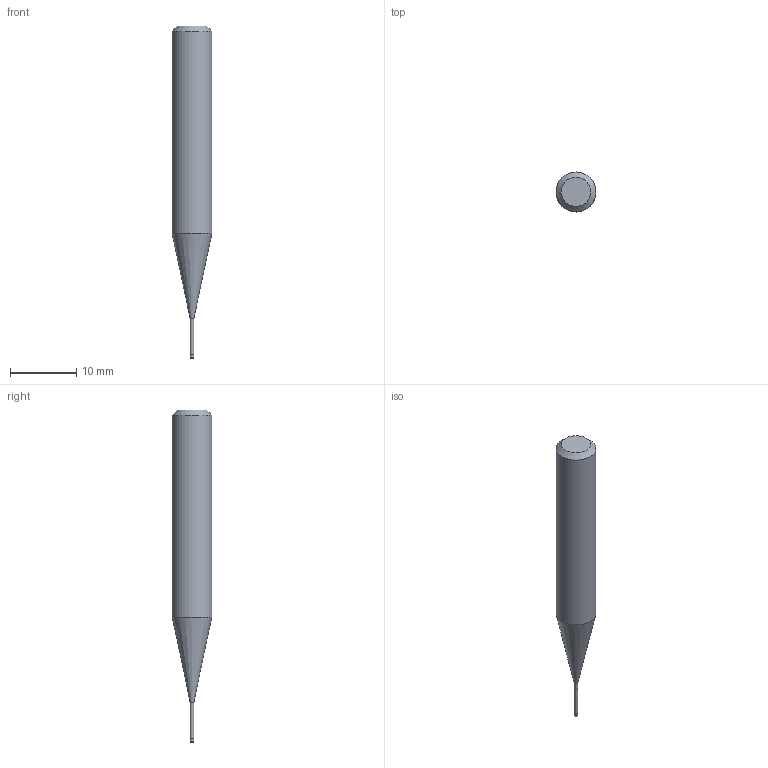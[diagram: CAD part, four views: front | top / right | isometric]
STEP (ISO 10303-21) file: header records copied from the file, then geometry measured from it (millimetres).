
FILE_DESCRIPTION((''),'2;1');
FILE_NAME('C:\Users\nsx150\AppData\Local\Temp\Mastercam 2021\17T8Q8S9EB\TEMP.step','2021-04-21T14:31:48',(''),(''),'STEP Write','Mastercam 2021 ... CNC Software, Inc.','');
FILE_SCHEMA(('AUTOMOTIVE_DESIGN'));
Length unit declared in the file: millimetre
Products named in the file (1): None
Bounding box: 6 x 6 x 50 mm (x, y, z)
Volume: 1011.2 mm3; surface area: 752.9 mm2
Topology: 2 solids, 2 shells, 10 faces, 14 edges, 8 vertices
Faces by surface type: plane 4, cylinder 3, cone 2, torus 1
Full cylindrical faces by diameter (mm): 0.56 x1, 0.6 x1, 6 x1
Entity records: 232 total; most frequent: DIRECTION 40, CARTESIAN_POINT 28, AXIS2_PLACEMENT_3D 20, ORIENTED_EDGE 16, EDGE_LOOP 16, STYLED_ITEM 13, ADVANCED_FACE 10, FACE_BOUND 10
